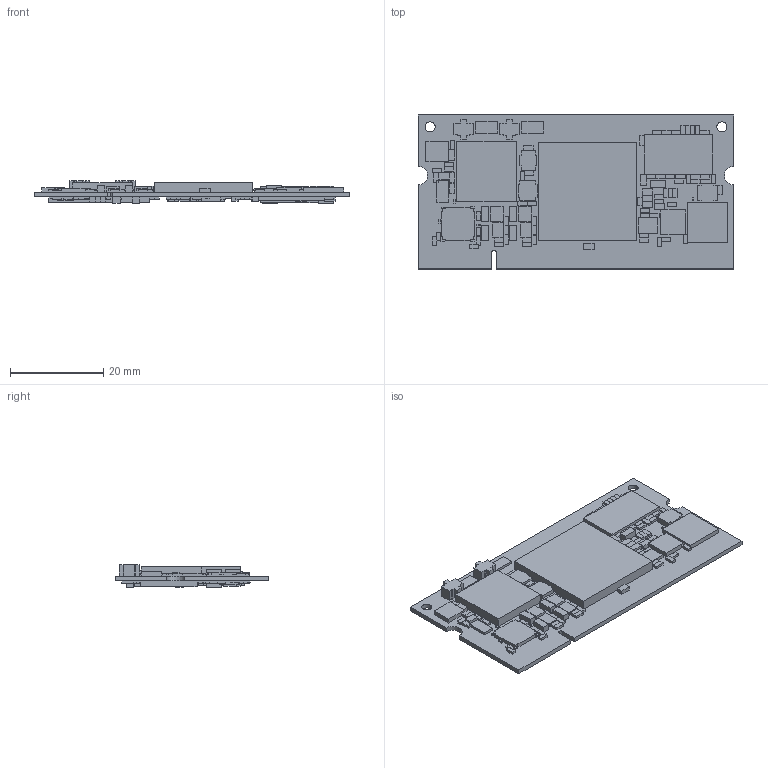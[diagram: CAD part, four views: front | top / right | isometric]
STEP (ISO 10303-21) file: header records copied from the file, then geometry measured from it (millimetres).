
FILE_DESCRIPTION (( 'STEP AP203' ), '1' );
FILE_NAME ('VAR_SOM_SOLO_V1-2_VPC0412-FINAL1.STEP', '2022-02-13T16:31:25', ( 'Äãñëí' ), ( '' ), 'SwSTEP 2.0', 'SolidWorks 2022', '' );
FILE_SCHEMA (( 'CONFIG_CONTROL_DESIGN' ));
Products named in the file (1): VAR_SOM_SOLO_V1-2_VPC0412-FINAL1
Bounding box: 67.6 x 32.99 x 4.9 mm (x, y, z)
Volume: 4933.6 mm3; surface area: 10464 mm2
Topology: 276 solids, 276 shells, 2510 faces, 5874 edges, 3916 vertices
Faces by surface type: plane 2493, cylinder 17
Entity records: 69707 total; most frequent: CARTESIAN_POINT 12301, ORIENTED_EDGE 11748, DIRECTION 10930, EDGE_CURVE 5874, LINE 5840, VECTOR 5840, VERTEX_POINT 3916, AXIS2_PLACEMENT_3D 2545
